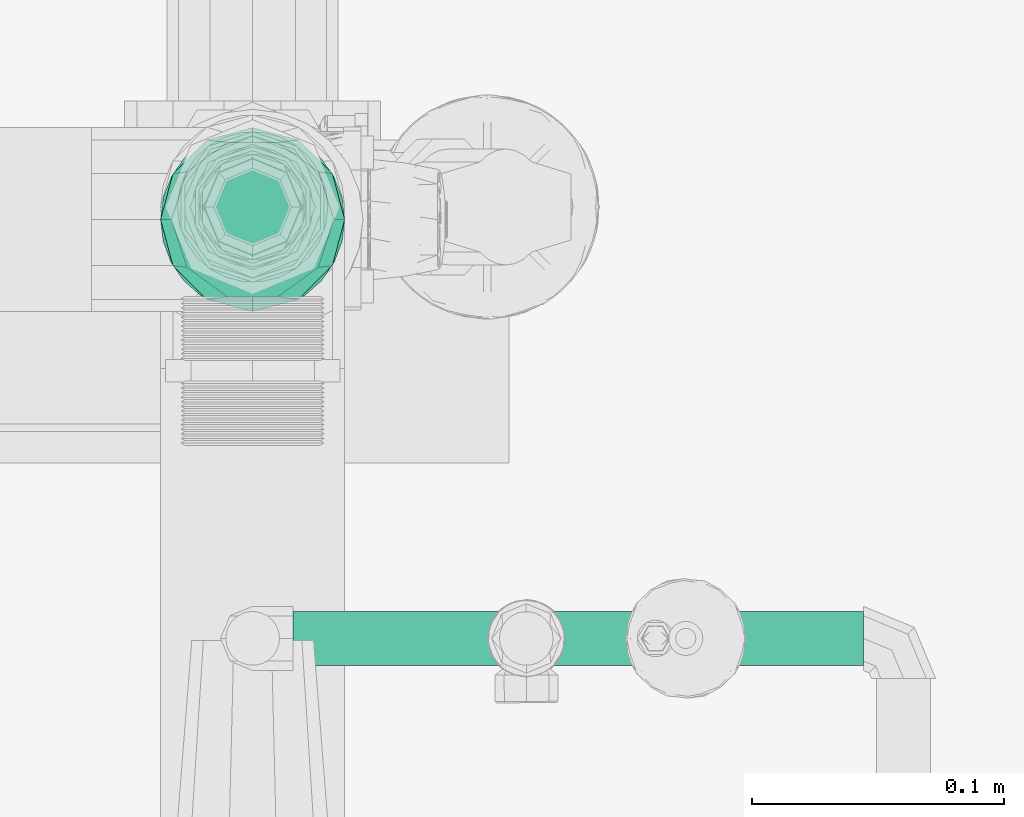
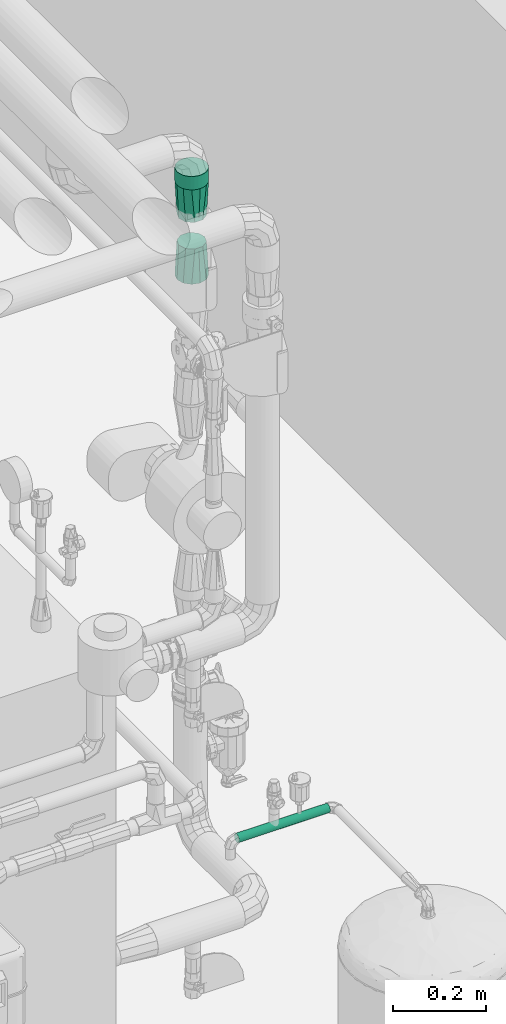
# One storey, part 25 of 43: 2 flow fittings, 2 flow segments.
"""IFC2X3 building model written with IfcOpenShell, lengths in millimetres."""

from ifc_helpers import new_model, entity, si_unit, converted_unit, derived_unit, direction, frame, frame_2d, origin, origin_2d_with_axis, place, context, subcontext, project, spatial, circle, extrude, faceted_brep, source, transform, mapped, material, type_object, type_shapes, element, save


model = new_model("IFC2X3")

# Units and contexts
model_context = context("Model", 3, precision=0.01, world=origin(), true_north=direction((6.123031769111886e-17, 1.0)))
body_context = subcontext(model_context, "Body", "Model", "MODEL_VIEW")
ifc_project = project(units=[si_unit("LENGTHUNIT", "METRE", prefix="MILLI"), si_unit("AREAUNIT", "SQUARE_METRE"), si_unit("VOLUMEUNIT", "CUBIC_METRE"), converted_unit("PLANEANGLEUNIT", "DEGREE", entity("IfcRatioMeasure", 0.017453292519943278), si_unit("PLANEANGLEUNIT", "RADIAN"), dimensions=[0, 0, 0, 0, 0, 0, 0]), si_unit("MASSUNIT", "GRAM", prefix="KILO"), derived_unit("MASSDENSITYUNIT", [(si_unit("MASSUNIT", "GRAM", prefix="KILO"), 1), (si_unit("LENGTHUNIT", "METRE"), -3)]), derived_unit("MOMENTOFINERTIAUNIT", [(si_unit("LENGTHUNIT", "METRE"), 4)]), si_unit("TIMEUNIT", "SECOND"), si_unit("FREQUENCYUNIT", "HERTZ"), si_unit("THERMODYNAMICTEMPERATUREUNIT", "DEGREE_CELSIUS"), derived_unit("THERMALTRANSMITTANCEUNIT", [(si_unit("MASSUNIT", "GRAM", prefix="KILO"), 1), (si_unit("THERMODYNAMICTEMPERATUREUNIT", "KELVIN"), -1), (si_unit("TIMEUNIT", "SECOND"), -3)]), derived_unit("VOLUMETRICFLOWRATEUNIT", [(si_unit("LENGTHUNIT", "METRE"), 3), (si_unit("TIMEUNIT", "SECOND"), -1)]), derived_unit("MASSFLOWRATEUNIT", [(si_unit("MASSUNIT", "GRAM", prefix="KILO"), 1), (si_unit("TIMEUNIT", "SECOND"), -1)]), derived_unit("ROTATIONALFREQUENCYUNIT", [(si_unit("TIMEUNIT", "SECOND"), -1)]), si_unit("ELECTRICCURRENTUNIT", "AMPERE"), si_unit("ELECTRICVOLTAGEUNIT", "VOLT"), si_unit("POWERUNIT", "WATT"), si_unit("FORCEUNIT", "NEWTON", prefix="KILO"), si_unit("ILLUMINANCEUNIT", "LUX"), si_unit("LUMINOUSFLUXUNIT", "LUMEN"), si_unit("LUMINOUSINTENSITYUNIT", "CANDELA"), derived_unit("USERDEFINED", [(si_unit("MASSUNIT", "GRAM", prefix="KILO"), -1), (si_unit("LENGTHUNIT", "METRE"), -2), (si_unit("TIMEUNIT", "SECOND"), 3), (si_unit("LUMINOUSFLUXUNIT", "LUMEN"), 1)]), derived_unit("SOUNDPOWERUNIT", [(si_unit("MASSUNIT", "GRAM", prefix="KILO"), 1), (si_unit("LENGTHUNIT", "METRE"), 2), (si_unit("TIMEUNIT", "SECOND"), -3)]), derived_unit("SOUNDPRESSUREUNIT", [(si_unit("MASSUNIT", "GRAM", prefix="KILO"), 1), (si_unit("LENGTHUNIT", "METRE"), -1), (si_unit("TIMEUNIT", "SECOND"), -2)]), derived_unit("LINEARVELOCITYUNIT", [(si_unit("LENGTHUNIT", "METRE"), 1), (si_unit("TIMEUNIT", "SECOND"), -1)]), si_unit("PRESSUREUNIT", "PASCAL"), derived_unit("USERDEFINED", [(si_unit("LENGTHUNIT", "METRE"), -2), (si_unit("MASSUNIT", "GRAM", prefix="KILO"), 1), (si_unit("TIMEUNIT", "SECOND"), -2)]), derived_unit("LINEARFORCEUNIT", [(si_unit("MASSUNIT", "GRAM", prefix="KILO"), 1), (si_unit("LENGTHUNIT", "METRE"), 1), (si_unit("TIMEUNIT", "SECOND"), -2), (si_unit("LENGTHUNIT", "METRE"), -1)]), derived_unit("PLANARFORCEUNIT", [(si_unit("MASSUNIT", "GRAM", prefix="KILO"), 1), (si_unit("LENGTHUNIT", "METRE"), 1), (si_unit("TIMEUNIT", "SECOND"), -2), (si_unit("LENGTHUNIT", "METRE"), -2)])], contexts=[model_context])

# Site, building, storey
site_placement = place(None, origin())
site = spatial("IfcSite", under=ifc_project, at=site_placement, Name="Default", CompositionType="ELEMENT")
building_placement = place(site_placement, origin())
building = spatial("IfcBuilding", under=site, at=building_placement, CompositionType="ELEMENT")
storey_placement = place(building_placement, frame((0.0, 0.0, 270.0)))
storey = spatial("IfcBuildingStorey", under=building, at=storey_placement, Name="Niveau 0", CompositionType="ELEMENT", Elevation=270.0)

# Flow segments
pipe_segment_type = type_object("IfcPipeSegmentType", Name="Canalisation:tube acier", PredefinedType="NOTDEFINED")
flow_segment_1_placement = place(storey_placement, origin())
element("IfcFlowSegment", 1, at=flow_segment_1_placement, inside=storey, type_object=pipe_segment_type, Name="Canalisation:tube acier", ObjectType="Canalisation:tube acier", context=body_context, shape_type="SweptSolid", body=[
    extrude(circle(Radius=36.5125, at=frame_2d((0.0, -1.0828671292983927e-12), x_axis=(1.0, 0.0))), frame((-1682.0, -9310.0, 2295.535624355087)), (0.0, 0.0, 1.0), 35.06611003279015),
])
flow_segment_2_placement = place(storey_placement, origin())
element("IfcFlowSegment", 2, at=flow_segment_2_placement, inside=storey, type_object=pipe_segment_type, Name="Canalisation:tube acier", ObjectType="Canalisation:tube acier", context=body_context, shape_type="SweptSolid", body=[
    extrude(circle(Radius=10.668, at=origin_2d_with_axis()), frame((-1666.0910156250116, -9476.090171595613, 663.935535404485), z_axis=(1.0, 0.0, 0.0), x_axis=(0.0, -1.0, 0.0)), (0.0, 0.0, 1.0), 226.30493154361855),
])

# Flow fittings
ifc_material = material(Name="<Unnamed>")
pipe_fitting_type = type_object("IfcPipeFittingType", Name="Transformation - Générique:Standard", PredefinedType="NOTDEFINED", material=ifc_material)
shared_shape = source(origin(), body_context, "Body", "Brep", [
    faceted_brep([(89.0, 32.20898437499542, 0.0), (89.0, 29.133300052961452, 9.465983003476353), (89.0, 26.05761573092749, 18.93196600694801), (89.0, 18.0053696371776, 24.782265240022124), (89.0, 9.953123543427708, 30.632564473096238), (89.0, 0.0, 30.63256447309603), (89.0, -9.95312354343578, 30.632564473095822), (89.0, -18.00536963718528, 24.782265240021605), (89.0, -26.057615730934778, 18.931966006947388), (89.0, -29.133300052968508, 9.4659830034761), (89.0, -32.20898437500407, 0.0), (89.0, -29.133300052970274, -9.465983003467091), (89.0, -26.057615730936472, -18.931966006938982), (89.0, -18.005369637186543, -24.782265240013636), (89.0, -9.953123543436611, -30.6325644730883), (89.0, 0.0, -30.632564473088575), (89.0, 9.953123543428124, -30.632564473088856), (89.0, 18.005369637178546, -24.78226524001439), (89.0, 26.05761573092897, -18.931966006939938), (89.0, 29.13330005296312, -9.465983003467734), (0.0, 9.125000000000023, 34.054963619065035), (0.0, 18.249999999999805, 31.609927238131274), (0.0, 24.929963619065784, 24.929963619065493), (0.0, 31.609927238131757, 18.249999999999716), (0.0, 34.62802893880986, 6.986291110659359), (0.0, 36.50000000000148, 0.0), (0.0, 34.62802896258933, -6.986291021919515), (0.0, 31.609927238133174, -18.2500000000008), (0.0, 24.929963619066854, -24.929963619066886), (0.0, 18.250000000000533, -31.609927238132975), (0.0, 9.12500000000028, -34.05496361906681), (0.0, 0.0, -36.50000000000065), (0.0, -9.125000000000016, -34.054963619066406), (0.0, -18.250000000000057, -31.609927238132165), (0.0, -24.929963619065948, -24.929963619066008), (0.0, -31.609927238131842, -18.249999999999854), (0.0, -34.62802893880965, -6.986291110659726), (0.0, -36.499999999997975, 0.0), (0.0, -34.62802896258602, 6.98629102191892), (0.0, -31.609927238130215, 18.249999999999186), (0.0, -24.92996361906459, 24.92996361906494), (0.0, -18.249999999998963, 31.609927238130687), (0.0, -9.124999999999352, 34.05496361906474), (0.0, 0.0, 36.49999999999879)], [[[0, 1, 2, 3, 4, 5, 6, 7, 8, 9, 10, 11, 12, 13, 14, 15, 16, 17, 18, 19]], [[20, 21, 22, 23, 24, 25, 26, 27, 28, 29, 30, 31, 32, 33, 34, 35, 36, 37, 38, 39, 40, 41, 42, 43]], [[28, 17, 29]], [[27, 18, 28]], [[17, 28, 18]], [[27, 19, 18]], [[26, 0, 19]], [[33, 14, 13]], [[35, 11, 36]], [[17, 16, 29]], [[14, 32, 15]], [[16, 15, 30]], [[12, 34, 13]], [[32, 31, 15]], [[33, 13, 34]], [[10, 36, 11]], [[27, 26, 19]], [[14, 33, 32]], [[0, 26, 25]], [[11, 35, 12]], [[12, 35, 34]], [[10, 37, 36]], [[30, 15, 31]], [[30, 29, 16]], [[40, 7, 41]], [[39, 8, 40]], [[7, 40, 8]], [[39, 9, 8]], [[38, 10, 9]], [[21, 4, 3]], [[23, 1, 24]], [[7, 6, 41]], [[4, 20, 5]], [[6, 5, 42]], [[2, 22, 3]], [[20, 43, 5]], [[21, 3, 22]], [[0, 24, 1]], [[39, 38, 9]], [[4, 21, 20]], [[10, 38, 37]], [[1, 23, 2]], [[2, 23, 22]], [[0, 25, 24]], [[42, 5, 43]], [[42, 41, 6]]]),
])
type_shapes(pipe_fitting_type, [shared_shape])
for number, where, z_axis, x_axis in (
    (3, (-1682.0, -9310.0, 2295.5356243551), (0.0, -1.0, 0.0), (0.0, 0.0, -1.0)),
    (4, (-1682.0, -9310.0, 2047.5356243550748), (0.0, -1.0, 0.0), (0.0, 0.0, 1.0)),
):
    element("IfcFlowFitting", number, at=place(storey_placement, frame(where, z_axis=z_axis, x_axis=x_axis)), inside=storey, type_object=pipe_fitting_type, material=ifc_material, Name="Transformation - Générique:Standard", ObjectType="Transformation - Générique:Standard", context=body_context, shape_type="MappedRepresentation", body=[
        mapped(shared_shape, transform((0.0, 0.0, 0.0), scale=1.0)),
    ])

save(model, "model.ifc")
